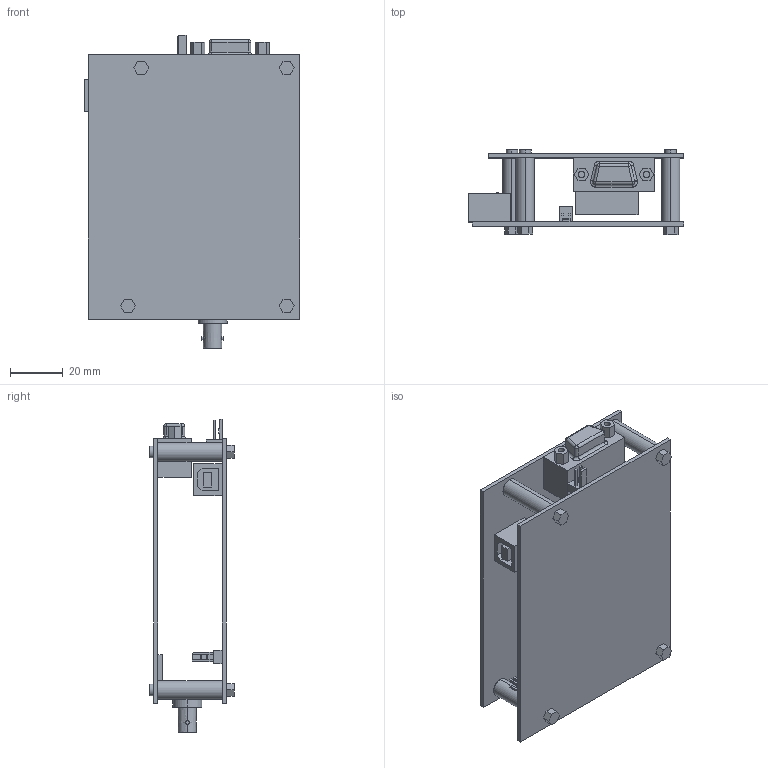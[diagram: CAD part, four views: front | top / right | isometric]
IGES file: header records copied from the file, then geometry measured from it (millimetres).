
Start section: SolidWorks IGES file using analytic representation for surfaces
Global section: file name: N:\Various\_MicronorTemperature\FOTEMP\Modification_FC_ST\98-OPTC-18 A\98-OPTC-18_REVA1.IGS; native system: SolidWorks 2017; preprocessor: SolidWorks 2017; author: alan; date: 180406.111855; units: millimetre
Bounding box: 81.6 x 32 x 118.55 mm (x, y, z)
Surface area: 40895.6 mm2 (no closed solid volume)
Topology: 0 solids, 0 shells, 207 faces, 1889 edges, 1884 vertices
Faces by surface type: bspline 151, revolution 56
